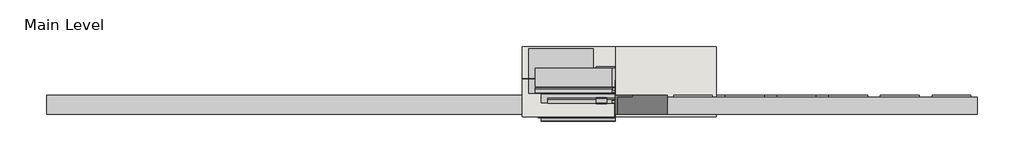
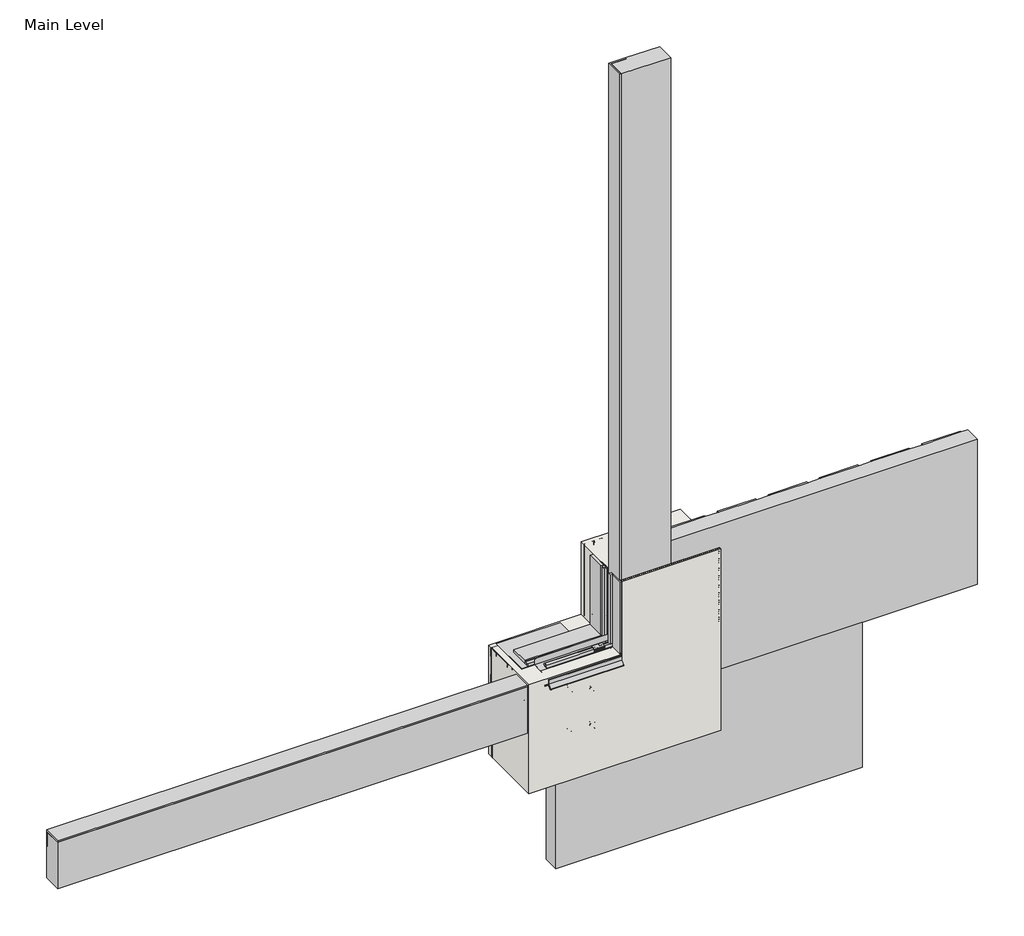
# One storey, incomplete: 30 proxies, 1 wall.
"""IFC4 building model written with IfcOpenShell, lengths in millimetres."""

from ifc_helpers import new_model, si_unit, frame, origin, place, context, project, spatial, polyline, outline, extrude, transform, mapped, element, save
from components import generic_models_31547c53, generic_models_d28646c3, generic_models_6d26ea6e, generic_models_db5184ed, generic_models_008a3d59, generic_models_12b73edd, generic_models_724a5e66, generic_models_bb7dc723, generic_models_8c792c9c, proxy_4c3b85e5, proxy_c7e97176, proxy_8bbb4755, finish_coat_filler_finish_coat_filler_9b34bf11, masonry_sill_masonry_sill_39c7edd1, masonry_sill1_masonry_sill_69ac0e3b, masonry_sill3_masonry_sill_d59b7927, masonry_sill4_masonry_sill_f52e6068, proxy_a3fd9b0b, proxy_3a0ad636, proxy_0073da47, proxy_6f3203ff, window_header_window_header_abd4ef46, wood_blocking_5320d369

model = new_model("IFC4")

# Units and contexts
model_context = context("Model", 3, world=origin())
ifc_project = project(units=[si_unit("LENGTHUNIT", "METRE", prefix="MILLI")], contexts=[model_context])

# Site, building, storey
site = spatial("IfcSite", under=ifc_project)
building = spatial("IfcBuilding", under=site)
storey = spatial("IfcBuildingStorey", under=building, Name="Main Level", Elevation=0.0)

# Proxies
placement = place(None, origin())
generic_models_shape = generic_models_31547c53(model_context)
element("IfcBuildingElementProxy", 1, Name="Durabond Generic Model Sealant Vent : Durabond Generic Model Sealant Vent", ObjectType="Durabond Generic Model Sealant Vent : Durabond Generic Model Sealant Vent", at=placement, inside=storey, context=model_context, shape_type="MappedRepresentation", body=[
    mapped(generic_models_shape, transform((26800.7195523, 590.8476543, 464.646745), x_axis=(1.0, 0.0, 0.0), y_axis=(0.0, 0.08715574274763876, -0.9961946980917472), z_axis=(0.0, 0.9961946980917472, 0.08715574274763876))),
])
generic_models_2_shape = generic_models_d28646c3(model_context)
element("IfcBuildingElementProxy", 2, Name="CRAi Generic Model Line Based Drip Deflector : CRAi Generic Model Line Based Drip Deflector", ObjectType="CRAi Generic Model Line Based Drip Deflector : CRAi Generic Model Line Based Drip Deflector", at=placement, inside=storey, context=model_context, shape_type="MappedRepresentation", body=[
    mapped(generic_models_2_shape, transform((26855.8851773, 535.1829375, 451.8088934), x_axis=(0.0, 0.996194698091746, 0.08715574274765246), y_axis=(-1.0, 0.0, 0.0), z_axis=(0.0, -0.0871557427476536, 0.996194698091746))),
])
generic_models_3_shape = generic_models_6d26ea6e(model_context)
generic_models_4_shape = generic_models_db5184ed(model_context)
generic_models_5_shape = generic_models_008a3d59(model_context)
generic_models_6_shape = generic_models_12b73edd(model_context)
element("IfcBuildingElementProxy", 3, Name="CRAi Generic Model Mesh Piece Face Based : CRAi Generic Model Mesh Piece Face Based", ObjectType="CRAi Generic Model Mesh Piece Face Based : CRAi Generic Model Mesh Piece Face Based", at=placement, inside=storey, context=model_context, shape_type="MappedRepresentation", body=[
    mapped(generic_models_3_shape, transform((27054.3226773, 541.9066297, 606.6633203), x_axis=(-1.0, 0.0, 0.0), y_axis=(0.0, 0.0, -1.0), z_axis=(0.0, -1.0, 0.0))),
    mapped(generic_models_4_shape, transform((27054.3226773, 541.9066297, 606.6633203), x_axis=(-1.0, 0.0, 0.0), y_axis=(0.0, 0.0, -1.0), z_axis=(0.0, -1.0, 0.0))),
    mapped(generic_models_5_shape, transform((27054.3226773, 541.9066297, 606.6633203), x_axis=(-1.0, 0.0, 0.0), y_axis=(0.0, 0.0, -1.0), z_axis=(0.0, -1.0, 0.0))),
    mapped(generic_models_6_shape, transform((27054.3226773, 541.9066297, 606.6633203), x_axis=(-1.0, 0.0, 0.0), y_axis=(0.0, 0.0, -1.0), z_axis=(0.0, -1.0, 0.0))),
])
generic_models_7_shape = generic_models_724a5e66(model_context)
element("IfcBuildingElementProxy", 4, Name="Durabond Generic Model Insulation Adhesive Flat : Durabond Generic Model Insulation Adhesive Flat", ObjectType="Durabond Generic Model Insulation Adhesive Flat : Durabond Generic Model Insulation Adhesive Flat", at=placement, inside=storey, context=model_context, shape_type="MappedRepresentation", body=[
    mapped(generic_models_7_shape, transform((26703.4851773, 627.6316297, 381.0), x_axis=(1.0, 0.0, 0.0), y_axis=(0.0, -1.0, 0.0), z_axis=(0.0, 0.0, -1.0))),
])
element("IfcBuildingElementProxy", 5, Name="Durabond Generic Model Insulation Adhesive Flat : Durabond Generic Model Insulation Adhesive Flat", ObjectType="Durabond Generic Model Insulation Adhesive Flat : Durabond Generic Model Insulation Adhesive Flat", at=placement, inside=storey, context=model_context, shape_type="MappedRepresentation", body=[
    mapped(generic_models_7_shape, transform((26805.0851773, 627.6316297, 381.0), x_axis=(1.0, 0.0, 0.0), y_axis=(0.0, -1.0, 0.0), z_axis=(0.0, 0.0, -1.0))),
])
generic_models_8_shape = generic_models_bb7dc723(model_context)
element("IfcBuildingElementProxy", 6, Name="Durabond Generic Model Insulation Adhesive Flat : Durabond Generic Model Insulation Adhesive Flat", ObjectType="Durabond Generic Model Insulation Adhesive Flat : Durabond Generic Model Insulation Adhesive Flat", at=placement, inside=storey, context=model_context, shape_type="MappedRepresentation", body=[
    mapped(generic_models_8_shape, transform((26906.6851773, 627.6316297, 762.0), x_axis=(1.0, 0.0, 0.0), y_axis=(0.0, -1.0, 0.0), z_axis=(0.0, 0.0, -1.0))),
])
element("IfcBuildingElementProxy", 7, Name="Durabond Generic Model Insulation Adhesive Flat : Durabond Generic Model Insulation Adhesive Flat", ObjectType="Durabond Generic Model Insulation Adhesive Flat : Durabond Generic Model Insulation Adhesive Flat", at=placement, inside=storey, context=model_context, shape_type="MappedRepresentation", body=[
    mapped(generic_models_8_shape, transform((27008.2851773, 627.6316297, 762.0), x_axis=(1.0, 0.0, 0.0), y_axis=(0.0, -1.0, 0.0), z_axis=(0.0, 0.0, -1.0))),
])
element("IfcBuildingElementProxy", 8, Name="Durabond Generic Model Insulation Adhesive Flat : Durabond Generic Model Insulation Adhesive Flat", ObjectType="Durabond Generic Model Insulation Adhesive Flat : Durabond Generic Model Insulation Adhesive Flat", at=placement, inside=storey, context=model_context, shape_type="MappedRepresentation", body=[
    mapped(generic_models_8_shape, transform((27109.8851773, 627.6316297, 762.0), x_axis=(1.0, 0.0, 0.0), y_axis=(0.0, -1.0, 0.0), z_axis=(0.0, 0.0, -1.0))),
])
element("IfcBuildingElementProxy", 9, Name="Durabond Generic Model Insulation Adhesive Flat : Durabond Generic Model Insulation Adhesive Flat", ObjectType="Durabond Generic Model Insulation Adhesive Flat : Durabond Generic Model Insulation Adhesive Flat", at=placement, inside=storey, context=model_context, shape_type="MappedRepresentation", body=[
    mapped(generic_models_8_shape, transform((27211.4851773, 627.6316297, 762.0), x_axis=(1.0, 0.0, 0.0), y_axis=(0.0, -1.0, 0.0), z_axis=(0.0, 0.0, -1.0))),
])
generic_models_9_shape = generic_models_8c792c9c(model_context)
element("IfcBuildingElementProxy", 10, Name="Durabond Generic Model Screw w Standard Wall Plate : Durabond Generic Model Screw w Standard Wall Plate", ObjectType="Durabond Generic Model Screw w Standard Wall Plate : Durabond Generic Model Screw w Standard Wall Plate", at=placement, inside=storey, context=model_context, shape_type="MappedRepresentation", body=[
    mapped(generic_models_9_shape, transform((26654.2726773, 547.4628797, 381.125778), x_axis=(1.0, 0.0, 0.0), y_axis=(0.0, 0.0, 1.0), z_axis=(0.0, -1.0, 0.0))),
])
element("IfcBuildingElementProxy", 11, Name="Durabond Generic Model Screw w Standard Wall Plate : Durabond Generic Model Screw w Standard Wall Plate", ObjectType="Durabond Generic Model Screw w Standard Wall Plate : Durabond Generic Model Screw w Standard Wall Plate", at=placement, inside=storey, context=model_context, shape_type="MappedRepresentation", body=[
    mapped(generic_models_9_shape, transform((26743.1726773, 545.0816297, 349.375778), x_axis=(1.0, 0.0, 0.0), y_axis=(0.0, 0.0, 1.0), z_axis=(0.0, -1.0, 0.0))),
])
element("IfcBuildingElementProxy", 12, Name="Durabond Generic Model Screw w Standard Wall Plate : Durabond Generic Model Screw w Standard Wall Plate", ObjectType="Durabond Generic Model Screw w Standard Wall Plate : Durabond Generic Model Screw w Standard Wall Plate", at=placement, inside=storey, context=model_context, shape_type="MappedRepresentation", body=[
    mapped(generic_models_9_shape, transform((26743.1726773, 545.0816297, 196.975778), x_axis=(1.0, 0.0, 0.0), y_axis=(0.0, 0.0, 1.0), z_axis=(0.0, -1.0, 0.0))),
])
element("IfcBuildingElementProxy", 13, Name="Durabond Generic Model Screw w Standard Wall Plate : Durabond Generic Model Screw w Standard Wall Plate", ObjectType="Durabond Generic Model Screw w Standard Wall Plate : Durabond Generic Model Screw w Standard Wall Plate", at=placement, inside=storey, context=model_context, shape_type="MappedRepresentation", body=[
    mapped(generic_models_9_shape, transform((26654.2726773, 547.4628797, 209.675778), x_axis=(1.0, 0.0, 0.0), y_axis=(0.0, 0.0, 1.0), z_axis=(0.0, -1.0, 0.0))),
])
proxy_shape = proxy_4c3b85e5(model_context)
element("IfcBuildingElementProxy", 14, Name="Durabond Generic Model Insulite Select Extruded Boundary Board : 3\"", ObjectType="Durabond Generic Model Insulite Select Extruded Boundary Board : 3\"", at=placement, inside=storey, context=model_context, shape_type="MappedRepresentation", body=[
    mapped(proxy_shape, transform((25839.8851773, 624.4566297, 349.375778), x_axis=(-1.0, 0.0, 0.0), y_axis=(0.0, 0.0, -1.0), z_axis=(0.0, -1.0, 0.0))),
])
proxy_2_shape = proxy_c7e97176(model_context)
element("IfcBuildingElementProxy", 15, Name="Durabond Generic Model Insulite Select Extruded Boundary Board : 3\"", ObjectType="Durabond Generic Model Insulite Select Extruded Boundary Board : 3\"", at=placement, inside=storey, context=model_context, shape_type="MappedRepresentation", body=[
    mapped(proxy_2_shape, transform((26957.4851773, 624.4566297, 1670.175778), x_axis=(0.0, 0.0, 1.0), y_axis=(-1.0, 0.0, 0.0), z_axis=(0.0, -1.0, 0.0))),
])
proxy_3_shape = proxy_8bbb4755(model_context)
element("IfcBuildingElementProxy", 16, Name="Durabond Generic Model Insulite Select Extruded Insulation Board : 3\"", ObjectType="Durabond Generic Model Insulite Select Extruded Insulation Board : 3\"", at=placement, inside=storey, context=model_context, shape_type="MappedRepresentation", body=[
    mapped(proxy_3_shape, transform((27211.4851773, 624.4566297, -57.024222), x_axis=(1.0, 0.0, 0.0), y_axis=(0.0, 0.0, 1.0), z_axis=(0.0, -1.0, 0.0))),
])
element("IfcBuildingElementProxy", 17, Name="Durabond Generic Model Insulite Select Extruded Insulation Board : 3\"", ObjectType="Durabond Generic Model Insulite Select Extruded Insulation Board : 3\"", at=placement, inside=storey, context=model_context, shape_type="MappedRepresentation", body=[
    mapped(proxy_3_shape, transform((27668.6851773, 624.4566297, 552.575778), x_axis=(1.0, 0.0, 0.0), y_axis=(0.0, 0.0, 1.0), z_axis=(0.0, -1.0, 0.0))),
])
finish_coat_filler_finish_coat_filler_shape = finish_coat_filler_finish_coat_filler_9b34bf11(model_context)
element("IfcBuildingElementProxy", 18, Name="Finish Coat Filler : Finish Coat Filler", ObjectType="Finish Coat Filler : Finish Coat Filler", at=placement, inside=storey, context=model_context, shape_type="MappedRepresentation", body=[
    mapped(finish_coat_filler_finish_coat_filler_shape, transform((0.0, 0.0, -152.4), x_axis=(1.0, 0.0, 0.0), y_axis=(0.0, 1.0, 0.0), z_axis=(0.0, 0.0, 1.0))),
])
masonry_sill_masonry_sill_shape = masonry_sill_masonry_sill_39c7edd1(model_context)
element("IfcBuildingElementProxy", 19, Name="Masonry Sill : Masonry Sill", ObjectType="Masonry Sill : Masonry Sill", at=placement, inside=storey, context=model_context, shape_type="MappedRepresentation", body=[
    mapped(masonry_sill_masonry_sill_shape, transform((0.0, 0.0, 0.0), x_axis=(1.0, 0.0, 0.0), y_axis=(0.0, 1.0, 0.0), z_axis=(0.0, 0.0, 1.0))),
])
masonry_sill1_masonry_sill_shape = masonry_sill1_masonry_sill_69ac0e3b(model_context)
element("IfcBuildingElementProxy", 20, Name="Masonry Sill1 : Masonry Sill", ObjectType="Masonry Sill1 : Masonry Sill", at=placement, inside=storey, context=model_context, shape_type="MappedRepresentation", body=[
    mapped(masonry_sill1_masonry_sill_shape, transform((0.0, 0.0, -152.4), x_axis=(1.0, 0.0, 0.0), y_axis=(0.0, 1.0, 0.0), z_axis=(0.0, 0.0, 1.0))),
])
masonry_sill3_masonry_sill_shape = masonry_sill3_masonry_sill_d59b7927(model_context)
element("IfcBuildingElementProxy", 21, Name="Masonry Sill3 : Masonry Sill", ObjectType="Masonry Sill3 : Masonry Sill", at=placement, inside=storey, context=model_context, shape_type="MappedRepresentation", body=[
    mapped(masonry_sill3_masonry_sill_shape, transform((0.0, 0.0, 0.0), x_axis=(1.0, 0.0, 0.0), y_axis=(0.0, 1.0, 0.0), z_axis=(0.0, 0.0, 1.0))),
])
masonry_sill4_masonry_sill_shape = masonry_sill4_masonry_sill_f52e6068(model_context)
element("IfcBuildingElementProxy", 22, Name="Masonry Sill4 : Masonry Sill", ObjectType="Masonry Sill4 : Masonry Sill", at=placement, inside=storey, context=model_context, shape_type="MappedRepresentation", body=[
    mapped(masonry_sill4_masonry_sill_shape, transform((0.0, 0.0, -101.6), x_axis=(1.0, 0.0, 0.0), y_axis=(0.0, 1.0, 0.0), z_axis=(0.0, 0.0, 1.0))),
])
proxy_4_shape = proxy_a3fd9b0b(model_context)
element("IfcBuildingElementProxy", 23, Name="CRAi Generic Model Metal Stud : Metal Framing Stud - 1\" x 3.5\"", ObjectType="CRAi Generic Model Metal Stud : Metal Framing Stud - 1\" x 3.5\"", at=placement, inside=storey, context=model_context, shape_type="MappedRepresentation", body=[
    mapped(proxy_4_shape, transform((26876.5226773, 726.0566297, 0.0), x_axis=(1.0, 0.0, 0.0), y_axis=(0.0, 1.0, 0.0), z_axis=(0.0, 0.0, 1.0))),
])
proxy_5_shape = proxy_3a0ad636(model_context)
element("IfcBuildingElementProxy", 24, Name="CRAi Generic Model Metal Stud : Metal Framing Stud - 1\" x 3.5\"", ObjectType="CRAi Generic Model Metal Stud : Metal Framing Stud - 1\" x 3.5\"", at=placement, inside=storey, context=model_context, shape_type="MappedRepresentation", body=[
    mapped(proxy_5_shape, transform((26876.5226773, 726.0566297, 0.0), x_axis=(1.0, 0.0, 0.0), y_axis=(0.0, 1.0, 0.0), z_axis=(0.0, 0.0, 1.0))),
])
proxy_6_shape = proxy_0073da47(model_context)
element("IfcBuildingElementProxy", 25, Name="CRAi Generic Model Metal Stud : Metal Framing Stud - 1\" x 3.5\"", ObjectType="CRAi Generic Model Metal Stud : Metal Framing Stud - 1\" x 3.5\"", at=placement, inside=storey, context=model_context, shape_type="MappedRepresentation", body=[
    mapped(proxy_6_shape, transform((26914.6226773, 726.0566297, 0.0), x_axis=(-1.0, 0.0, 0.0), y_axis=(0.0, -1.0, 0.0), z_axis=(0.0, 0.0, 1.0))),
])
proxy_7_shape = proxy_6f3203ff(model_context)
element("IfcBuildingElementProxy", 26, Name="CRAi Generic Model Metal Stud : Metal Framing Stud - 1\" x 3.5\"", ObjectType="CRAi Generic Model Metal Stud : Metal Framing Stud - 1\" x 3.5\"", at=placement, inside=storey, context=model_context, shape_type="MappedRepresentation", body=[
    mapped(proxy_7_shape, transform((26508.2226773, 726.0566297, 0.0), x_axis=(-1.0, 0.0, 0.0), y_axis=(0.0, -1.0, 0.0), z_axis=(0.0, 0.0, 1.0))),
])
window_header_window_header_shape = window_header_window_header_abd4ef46(model_context)
element("IfcBuildingElementProxy", 27, Name="Window Header : Window Header", ObjectType="Window Header : Window Header", at=placement, inside=storey, context=model_context, shape_type="MappedRepresentation", body=[
    mapped(window_header_window_header_shape, transform((0.0, 0.0, 0.0), x_axis=(1.0, 0.0, 0.0), y_axis=(0.0, 1.0, 0.0), z_axis=(0.0, 0.0, 1.0))),
])
wood_blocking_shape = wood_blocking_5320d369(model_context)
element("IfcBuildingElementProxy", 28, Name="CRAi Generic Model Line Based Metal Framing Track : Wood Blocking", ObjectType="CRAi Generic Model Line Based Metal Framing Track : Wood Blocking", at=placement, inside=storey, context=model_context, shape_type="MappedRepresentation", body=[
    mapped(wood_blocking_shape, transform((26489.1726773, 649.8566297, 304.8), x_axis=(1.0, 0.0, 0.0), y_axis=(0.0, 1.0, 0.0), z_axis=(0.0, 0.0, 1.0))),
])
element("IfcBuildingElementProxy", 29, Name="CRAi Generic Model Line Based Metal Framing Track : Wood Blocking", ObjectType="CRAi Generic Model Line Based Metal Framing Track : Wood Blocking", at=placement, inside=storey, context=model_context, shape_type="MappedRepresentation", body=[
    mapped(wood_blocking_shape, transform((26489.1726773, 802.257101, 457.2), x_axis=(1.0, 0.0, 0.0), y_axis=(0.0, -1.0, 0.0), z_axis=(0.0, 0.0, -1.0))),
])
element("IfcBuildingElementProxy", 30, Name="CRAi Generic Model Line Based Metal Framing Track : Wood Blocking", ObjectType="CRAi Generic Model Line Based Metal Framing Track : Wood Blocking", at=placement, inside=storey, context=model_context, shape_type="MappedRepresentation", body=[
    mapped(wood_blocking_shape, transform((26489.1726773, 802.2566297, 304.8), x_axis=(1.0, 0.0, 0.0), y_axis=(0.0, -1.0, 0.0), z_axis=(0.0, 0.0, -1.0))),
])

# Wall
element("IfcWall", 31, ObjectType="189mm (7.5”) EIFS Field Applied on Mtl. Stud Layer - 50mm Grooved Insulation Board Metal Stud Wall(AirStop)", at=placement, inside=storey, context=model_context, shape_type="SweptSolid", body=[
    extrude(outline(polyline([(0.0, 26489.1726773), (0.0, 27251.1726773), (762.0, 27251.1726773), (762.0, 26857.4726773), (457.2, 26857.4726773), (457.2, 26489.1726773), (0.0, 26489.1726773)])), frame((0.0, 538.7316297, 0.0), z_axis=(0.0, 1.0, 0.0), x_axis=(0.0, 0.0, 1.0)), (0.0, 0.0, 1.0), 276.225),
])

save(model, "model.ifc")
